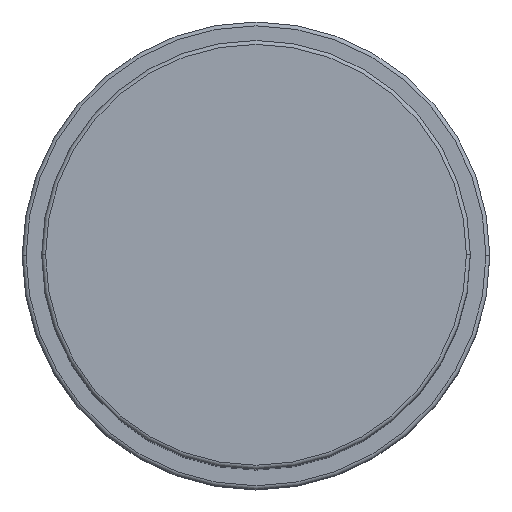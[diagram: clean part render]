
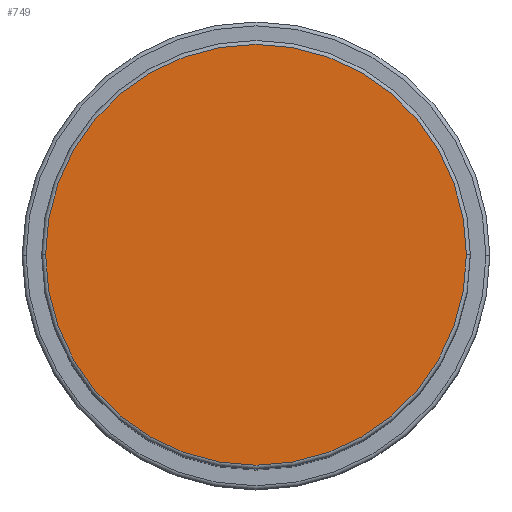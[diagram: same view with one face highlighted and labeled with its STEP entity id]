
A CAD part, top view. The second image highlights one B-rep face of the part: STEP entity #749.
In plain terms, the highlighted planar face has unit normal (0, 0, 1).
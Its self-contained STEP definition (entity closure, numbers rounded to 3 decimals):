
#25 = CARTESIAN_POINT ( 'NONE',  ( 0., 0., 101. ) ) ;
#26 = AXIS2_PLACEMENT_3D ( 'NONE', #269, #1637, #441 ) ;
#39 = CIRCLE ( 'NONE', #26, 27. ) ;
#70 = ORIENTED_EDGE ( 'NONE', *, *, #658, .T. ) ;
#154 = PLANE ( 'NONE',  #1330 ) ;
#160 = EDGE_LOOP ( 'NONE', ( #1549, #70 ) ) ;
#269 = CARTESIAN_POINT ( 'NONE',  ( 0., 0., 101. ) ) ;
#278 = DIRECTION ( 'NONE',  ( 0., 0., 1. ) ) ;
#301 = DIRECTION ( 'NONE',  ( 1., 0., 0. ) ) ;
#378 = VERTEX_POINT ( 'NONE', #452 ) ;
#441 = DIRECTION ( 'NONE',  ( 1., 0., 0. ) ) ;
#452 = CARTESIAN_POINT ( 'NONE',  ( 27., 0., 101. ) ) ;
#658 = EDGE_CURVE ( 'NONE', #1050, #378, #39, .T. ) ;
#749 = ADVANCED_FACE ( 'NONE', ( #1029 ), #154, .T. ) ;
#975 = CARTESIAN_POINT ( 'NONE',  ( 0., 0., 101. ) ) ;
#1029 = FACE_OUTER_BOUND ( 'NONE', #160, .T. ) ;
#1050 = VERTEX_POINT ( 'NONE', #1307 ) ;
#1102 = CIRCLE ( 'NONE', #1388, 27. ) ;
#1224 = DIRECTION ( 'NONE',  ( 1., 0., 0. ) ) ;
#1307 = CARTESIAN_POINT ( 'NONE',  ( -27., 0., 101. ) ) ;
#1330 = AXIS2_PLACEMENT_3D ( 'NONE', #25, #278, #1224 ) ;
#1388 = AXIS2_PLACEMENT_3D ( 'NONE', #975, #1668, #301 ) ;
#1549 = ORIENTED_EDGE ( 'NONE', *, *, #1576, .T. ) ;
#1576 = EDGE_CURVE ( 'NONE', #378, #1050, #1102, .T. ) ;
#1637 = DIRECTION ( 'NONE',  ( 0., 0., 1. ) ) ;
#1668 = DIRECTION ( 'NONE',  ( 0., 0., 1. ) ) ;
